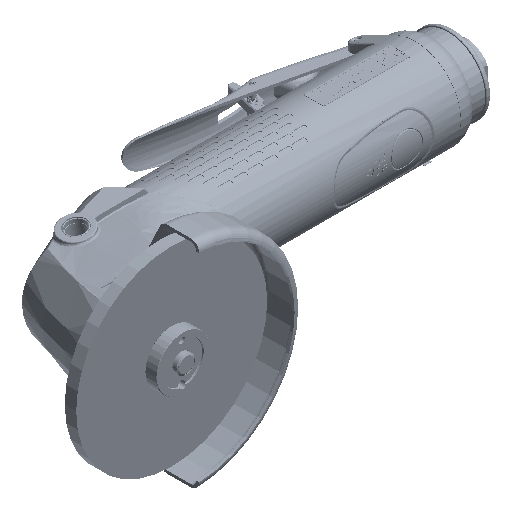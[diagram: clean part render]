
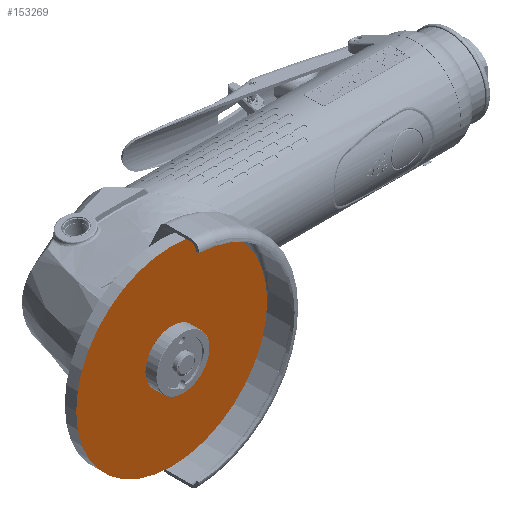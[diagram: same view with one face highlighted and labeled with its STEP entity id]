
A CAD part, isometric view. The second image highlights one B-rep face of the part: STEP entity #153269.
In plain terms, the highlighted planar face has unit normal (0, -1, 0).
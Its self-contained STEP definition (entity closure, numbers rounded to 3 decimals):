
#151158=CARTESIAN_POINT('',(0.,-55.14,0.));
#151159=DIRECTION('',(0.,-1.,0.));
#151160=DIRECTION('',(1.,0.,0.));
#151161=AXIS2_PLACEMENT_3D('',#151158,#151159,#151160);
#151163=CARTESIAN_POINT('',(0.,-55.14,0.));
#151164=DIRECTION('',(0.,-1.,0.));
#151165=DIRECTION('',(-1.,0.,0.));
#151166=AXIS2_PLACEMENT_3D('',#151163,#151164,#151165);
#151218=CARTESIAN_POINT('',(0.,-55.14,0.));
#151219=DIRECTION('',(0.,-1.,0.));
#151220=DIRECTION('',(1.,0.,0.));
#151221=AXIS2_PLACEMENT_3D('',#151218,#151219,#151220);
#151223=CARTESIAN_POINT('',(0.,-55.14,0.));
#151224=DIRECTION('',(0.,-1.,0.));
#151225=DIRECTION('',(-1.,0.,0.));
#151226=AXIS2_PLACEMENT_3D('',#151223,#151224,#151225);
#152696=CARTESIAN_POINT('',(50.,-55.14,0.));
#152697=CARTESIAN_POINT('',(-50.,-55.14,0.));
#152698=VERTEX_POINT('',#152696);
#152699=VERTEX_POINT('',#152697);
#153082=CARTESIAN_POINT('',(13.75,-55.14,0.));
#153083=CARTESIAN_POINT('',(-13.75,-55.14,0.));
#153084=VERTEX_POINT('',#153082);
#153085=VERTEX_POINT('',#153083);
#153254=CARTESIAN_POINT('',(0.,-55.14,0.));
#153255=DIRECTION('',(0.,1.,0.));
#153256=DIRECTION('',(-1.,0.,0.));
#153257=AXIS2_PLACEMENT_3D('',#153254,#153255,#153256);
#153258=PLANE('',#153257);
#153259=ORIENTED_EDGE('',*,*,#153247,.F.);
#153260=ORIENTED_EDGE('',*,*,#153236,.F.);
#153261=EDGE_LOOP('',(#153259,#153260));
#153262=FACE_OUTER_BOUND('',#153261,.F.);
#153264=ORIENTED_EDGE('',*,*,#153263,.T.);
#153266=ORIENTED_EDGE('',*,*,#153265,.T.);
#153267=EDGE_LOOP('',(#153264,#153266));
#153268=FACE_BOUND('',#153267,.F.);
#153269=ADVANCED_FACE('',(#153262,#153268),#153258,.F.);
#151162=CIRCLE('',#151161,50.);
#151167=CIRCLE('',#151166,50.);
#151222=CIRCLE('',#151221,13.75);
#151227=CIRCLE('',#151226,13.75);
#153236=EDGE_CURVE('',#152699,#152698,#151167,.T.);
#153247=EDGE_CURVE('',#152698,#152699,#151162,.T.);
#153263=EDGE_CURVE('',#153084,#153085,#151222,.T.);
#153265=EDGE_CURVE('',#153085,#153084,#151227,.T.);
